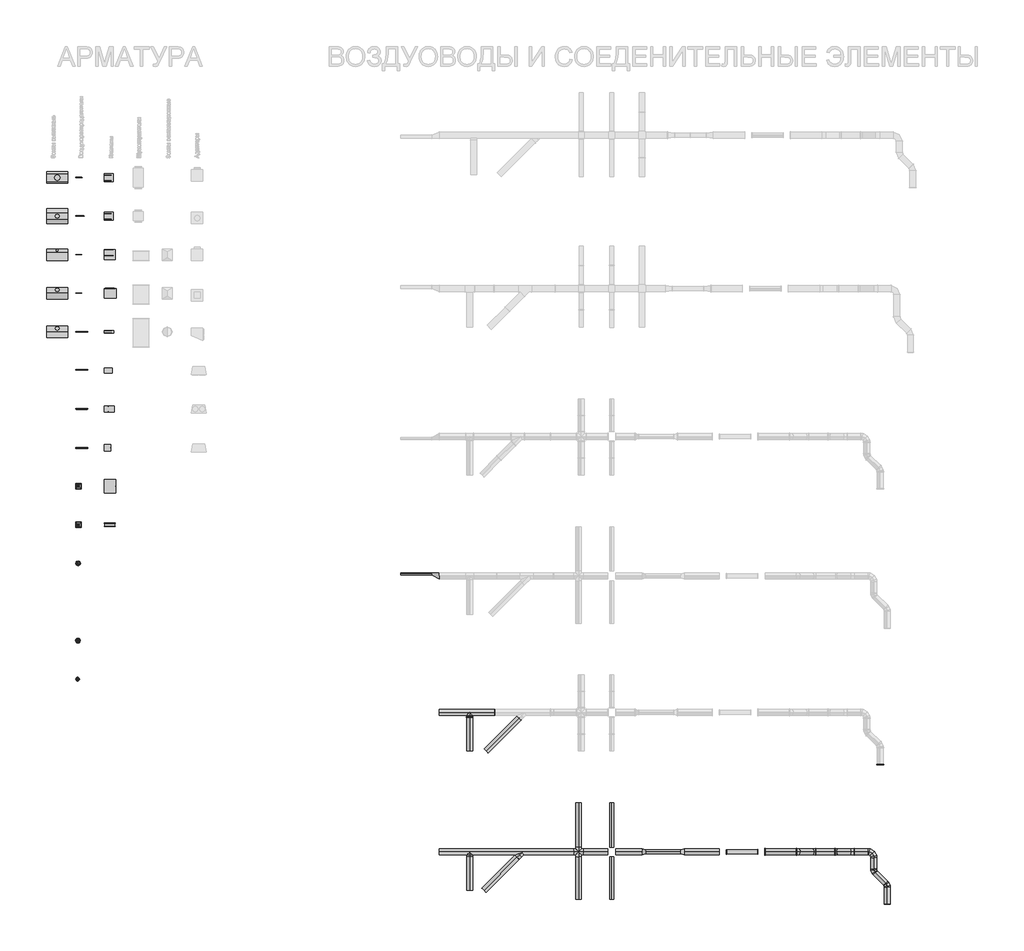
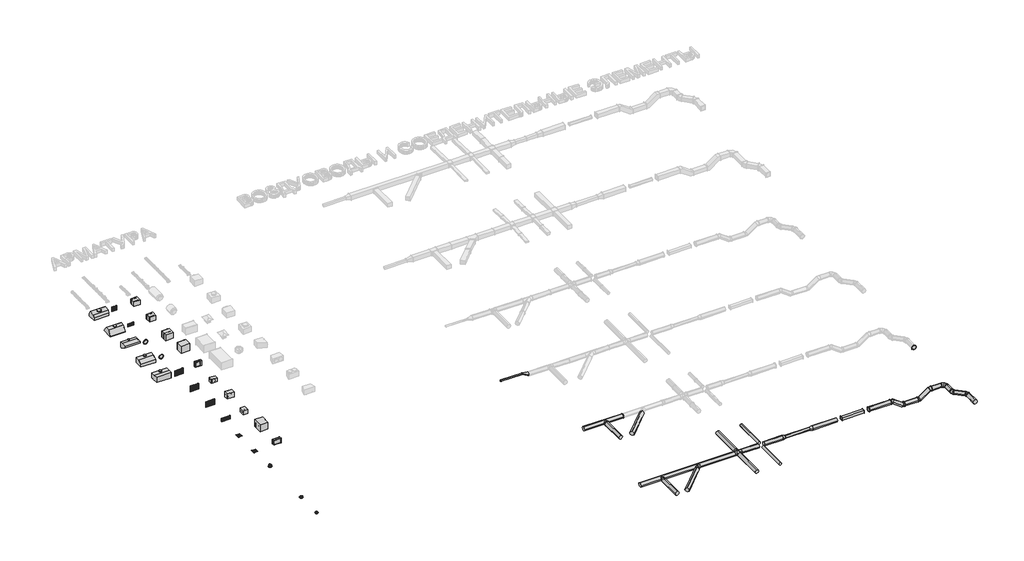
# One storey, part 1 of 8: 30 duct fittings, 22 duct segments, 18 air terminals, 10 dampers.
"""IFC4 building model written with IfcOpenShell, lengths in millimetres."""

from ifc_helpers import new_model, si_unit, point, frame, frame_2d, origin, place, context, project, spatial, polyline, circle_curve, trimmed, segment, composite_curve, outline, extrude, transform, mapped, element, save
from components import air_terminal_6631711a, air_terminal_726ac5b5, air_terminal_818791bf, air_terminal_c572d766, air_terminal_bbb7754d, air_terminal_75e9669e, air_terminal_655b97c2, air_terminal_7ce92efb, air_terminal_2eded44f, air_terminal_bd3d6ee1, air_terminal_1dd1559a, air_terminal_31dd35a5, air_terminal_cd9755a1, air_terminal_686e35e0, air_terminal_300x300_0f7a04d9, damper_64ad2245, damper_406b02c0, damper_ba747da2, damper_77c5eded, damper_d4565087, damper_23d59467, damper_62d6e836, damper_9898ae58, damper_53707811, duct_fitting_ac770645, duct_fitting_c73acc6d, duct_fitting_7090af0c, duct_fitting_e0d7a8d8, duct_fitting_46974226, duct_fitting_f76519de, duct_fitting_766df063, duct_fitting_5eff2181, duct_fitting_5b7d299d, duct_fitting_8ec2bed2, duct_fitting_57fa9806, duct_fitting_327ef4ee, duct_fitting_1ddd712a, duct_fitting_6a6d7aa5, duct_fitting_3902be6a, duct_fitting_cf778fcf, duct_fitting_49a873c3, duct_fitting_24f2fb5e, duct_fitting_d4da9353

model = new_model("IFC4")

# Units and contexts
model_context = context("Model", 3, world=origin())
ifc_project = project(units=[si_unit("LENGTHUNIT", "METRE", prefix="MILLI")], contexts=[model_context])

# Site, building, storey
site = spatial("IfcSite", under=ifc_project)
building = spatial("IfcBuilding", under=site)
storey = spatial("IfcBuildingStorey", under=building, Name="Уровень 1", Elevation=0.0)

# Air terminals
placement = place(None, origin())
air_terminal_shape = air_terminal_6631711a(model_context)
element("IfcAirTerminal", 1, ObjectType="BL_РешеткаКругаля_Забор_ALAV : BL_РешеткаКругаля_Забор_ALAV", at=placement, inside=storey, context=model_context, shape_type="MappedRepresentation", body=[
    mapped(air_terminal_shape, transform((-66708.1651759, 26347.2225324, 0.0), x_axis=(0.0, -1.0000000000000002, 0.0), y_axis=(1.0000000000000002, 0.0, 0.0), z_axis=(0.0, 0.0, 1.0))),
])
air_terminal_2_shape = air_terminal_726ac5b5(model_context)
element("IfcAirTerminal", 2, ObjectType="BL_ЗонтВытяжной_Пристенный_ЗВП : BL_ЗонтВытяжной_Пристенный_ЗВП", at=placement, inside=storey, context=model_context, shape_type="MappedRepresentation", body=[
    mapped(air_terminal_2_shape, transform((-67828.1651759, 26632.2225324, 0.0), x_axis=(1.0000000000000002, 0.0, 0.0), y_axis=(0.0, 1.0000000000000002, 0.0), z_axis=(0.0, 0.0, 1.0))),
])
air_terminal_3_shape = air_terminal_818791bf(model_context)
element("IfcAirTerminal", 3, ObjectType="BL_ЗонтВытяжной_Пристенный_ЗВП : BL_ЗонтВытяжной_Пристенный_ЗВП", at=placement, inside=storey, context=model_context, shape_type="MappedRepresentation", body=[
    mapped(air_terminal_3_shape, transform((-67828.1651759, 24632.2225324, 0.0), x_axis=(1.0000000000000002, 0.0, 0.0), y_axis=(0.0, 1.0000000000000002, 0.0), z_axis=(0.0, 0.0, 1.0))),
])
air_terminal_4_shape = air_terminal_c572d766(model_context)
element("IfcAirTerminal", 4, ObjectType="BL_ЗонтВытяжной_Пристенный_ЗВП : BL_ЗонтВытяжной_Пристенный_ЗВП", at=placement, inside=storey, context=model_context, shape_type="MappedRepresentation", body=[
    mapped(air_terminal_4_shape, transform((-67828.1651759, 22632.2225321, 0.0), x_axis=(1.0000000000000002, 0.0, 0.0), y_axis=(0.0, 1.0000000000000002, 0.0), z_axis=(0.0, 0.0, 1.0))),
])
air_terminal_5_shape = air_terminal_bbb7754d(model_context)
element("IfcAirTerminal", 5, ObjectType="BL_ЗонтВытяжной_Островной_ЗВО : BL_ЗонтВытяжной_Островной_ЗВО", at=placement, inside=storey, context=model_context, shape_type="MappedRepresentation", body=[
    mapped(air_terminal_5_shape, transform((-67828.1651759, 30332.2225324, 0.0), x_axis=(1.0000000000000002, 0.0, 0.0), y_axis=(0.0, 1.0000000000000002, 0.0), z_axis=(0.0, 0.0, 1.0))),
])
air_terminal_6_shape = air_terminal_75e9669e(model_context)
element("IfcAirTerminal", 6, ObjectType="BL_ЗонтВытяжной_Островной_ЗВО : BL_ЗонтВытяжной_Островной_ЗВО", at=placement, inside=storey, context=model_context, shape_type="MappedRepresentation", body=[
    mapped(air_terminal_6_shape, transform((-67828.1651759, 28332.2225324, 0.0), x_axis=(1.0000000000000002, 0.0, 0.0), y_axis=(0.0, 1.0000000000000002, 0.0), z_axis=(0.0, 0.0, 1.0))),
])
element("IfcAirTerminal", 7, ObjectType="BL_РешеткаКругаля_Выброс_ALAV : BL_РешеткаКругаля_Выброс_ALAV", at=placement, inside=storey, context=model_context, shape_type="MappedRepresentation", body=[
    mapped(air_terminal_shape, transform((-66708.1651759, 24347.2225324, 57.7350269), x_axis=(0.0, -1.0000000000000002, 0.0), y_axis=(1.0000000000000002, 0.0, 0.0), z_axis=(0.0, 0.0, 1.0))),
])
air_terminal_7_shape = air_terminal_655b97c2(model_context)
element("IfcAirTerminal", 8, ObjectType="BL_ДифузорСопловый_Приточный_LKV : BL_ДифузорСопловый_Приточный_LKV", at=placement, inside=storey, context=model_context, shape_type="MappedRepresentation", body=[
    mapped(air_terminal_7_shape, transform((-66748.1651759, 10332.2225324, -2.0), x_axis=(0.0, -1.0000000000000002, 0.0), y_axis=(1.0000000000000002, 0.0, 0.0), z_axis=(0.0, 0.0, 1.0))),
])
air_terminal_8_shape = air_terminal_7ce92efb(model_context)
element("IfcAirTerminal", 9, ObjectType="BL_РешеткаПрямоугольная_Приточная_LVN : BL_РешеткаПрямоугольная_Приточная_LVN", at=placement, inside=storey, context=model_context, shape_type="MappedRepresentation", body=[
    mapped(air_terminal_8_shape, transform((-66555.6651759, 22357.2225324, 0.0), x_axis=(0.0, -1.0000000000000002, 0.0), y_axis=(1.0000000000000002, 0.0, 0.0), z_axis=(0.0, 0.0, 1.0))),
])
air_terminal_9_shape = air_terminal_2eded44f(model_context)
element("IfcAirTerminal", 10, ObjectType="BL_РешеткаПрямоугольная_Приточная_LVO : BL_РешеткаПрямоугольная_Приточная_LVO", at=placement, inside=storey, context=model_context, shape_type="MappedRepresentation", body=[
    mapped(air_terminal_9_shape, transform((-66705.6651759, 30362.2225324, 172.5), x_axis=(0.0, -1.0000000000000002, 0.0), y_axis=(1.0000000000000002, 0.0, 0.0), z_axis=(0.0, 0.0, 1.0))),
])
air_terminal_10_shape = air_terminal_bd3d6ee1(model_context)
element("IfcAirTerminal", 11, ObjectType="BL_РешеткаПрямоугольная_Вытяжная_LVO : BL_РешеткаПрямоугольная_Вытяжная_LVO", at=placement, inside=storey, context=model_context, shape_type="MappedRepresentation", body=[
    mapped(air_terminal_10_shape, transform((-66655.6651759, 28362.2225324, 122.5), x_axis=(0.0, -1.0000000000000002, 0.0), y_axis=(1.0000000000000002, 0.0, 0.0), z_axis=(0.0, 0.0, 1.0))),
])
element("IfcAirTerminal", 12, ObjectType="BL_РешеткаПрямоугольная_Вытяжная_LVN : BL_РешеткаПрямоугольная_Вытяжная_LVN", at=placement, inside=storey, context=model_context, shape_type="MappedRepresentation", body=[
    mapped(air_terminal_8_shape, transform((-66555.6651759, 20371.4432399, 0.0), x_axis=(0.0, -1.0000000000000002, 0.0), y_axis=(1.0000000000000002, 0.0, 0.0), z_axis=(0.0, 0.0, 1.0))),
])
air_terminal_11_shape = air_terminal_1dd1559a(model_context)
element("IfcAirTerminal", 13, ObjectType="BL_РешеткаПрямоугольная_Вытяжная_LVI : BL_РешеткаПрямоугольная_Вытяжная_LVI", at=placement, inside=storey, context=model_context, shape_type="MappedRepresentation", body=[
    mapped(air_terminal_11_shape, transform((-66555.6651759, 18362.2225324, 0.0), x_axis=(0.0, -1.0000000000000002, 0.0), y_axis=(1.0000000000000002, 0.0, 0.0), z_axis=(0.0, 0.0, 1.0))),
])
air_terminal_12_shape = air_terminal_31dd35a5(model_context)
element("IfcAirTerminal", 14, ObjectType="BL_РешеткаПрямоугольная_Вытяжная_LVK : BL_РешеткаПрямоугольная_Вытяжная_LVK", at=placement, inside=storey, context=model_context, shape_type="MappedRepresentation", body=[
    mapped(air_terminal_12_shape, transform((-66555.6651759, 16322.2225324, 0.0), x_axis=(0.0, -1.0000000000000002, 0.0), y_axis=(1.0000000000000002, 0.0, 0.0), z_axis=(0.0, 0.0, 1.0))),
])
air_terminal_13_shape = air_terminal_cd9755a1(model_context)
element("IfcAirTerminal", 15, ObjectType="BL_ДифузорПотолочный_Приточный_DVSP : BL_ДифузорПотолочный_Приточный_DVSP", at=placement, inside=storey, context=model_context, shape_type="MappedRepresentation", body=[
    mapped(air_terminal_13_shape, transform((-66772.6651759, 4332.2225324, 0.0), x_axis=(0.0, -1.0000000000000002, 0.0), y_axis=(1.0000000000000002, 0.0, 0.0), z_axis=(0.0, 0.0, 1.0))),
])
air_terminal_14_shape = air_terminal_686e35e0(model_context)
element("IfcAirTerminal", 16, ObjectType="BL_ДифузорПотолочный_Вытяжной_DVSV : BL_ДифузорПотолочный_Вытяжной_DVSV", at=placement, inside=storey, context=model_context, shape_type="MappedRepresentation", body=[
    mapped(air_terminal_14_shape, transform((-66755.1651759, 6332.2225324, 0.0), x_axis=(0.0, -1.0000000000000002, 0.0), y_axis=(1.0000000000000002, 0.0, 0.0), z_axis=(0.0, 0.0, 1.0))),
])
air_terminal_300x300_shape = air_terminal_300x300_0f7a04d9(model_context)
element("IfcAirTerminal", 17, ObjectType="BL_ДифузорПотолочный_Прямоугольный_Приточный_LDP : 300x300", at=placement, inside=storey, context=model_context, shape_type="MappedRepresentation", body=[
    mapped(air_terminal_300x300_shape, transform((-66728.1651759, 14332.2225324, 0.0), x_axis=(0.0, -1.0000000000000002, 0.0), y_axis=(1.0000000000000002, 0.0, 0.0), z_axis=(0.0, 0.0, 1.0))),
])
element("IfcAirTerminal", 18, ObjectType="BL_ДифузорПотолочный_Прямоугольный_Вытяжной_LDP : 300x300", at=placement, inside=storey, context=model_context, shape_type="MappedRepresentation", body=[
    mapped(air_terminal_300x300_shape, transform((-66728.1651759, 12332.2225324, 0.0), x_axis=(0.0, -1.0000000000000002, 0.0), y_axis=(1.0000000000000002, 0.0, 0.0), z_axis=(0.0, 0.0, 1.0))),
])

# Dampers
damper_shape = damper_64ad2245(model_context)
element("IfcDamper", 19, ObjectType="КлапанДымовой_НЗ_LVS : КлапанДымовой_НЗ_LVS", at=placement, inside=storey, context=model_context, shape_type="MappedRepresentation", body=[
    mapped(damper_shape, transform((-65205.1651759, 30312.2225324, 173.0), x_axis=(0.0, -1.0000000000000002, 0.0), y_axis=(1.0000000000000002, 0.0, 0.0), z_axis=(0.0, 0.0, 1.0))),
])
element("IfcDamper", 20, ObjectType="КлапанОгнезадерживающийПрямугольный_НО_LVS : КлапанОгнезадерживающийПрямугольный_НО_LVS", at=placement, inside=storey, context=model_context, shape_type="MappedRepresentation", body=[
    mapped(damper_shape, transform((-65205.1651759, 28312.2225324, 173.0), x_axis=(0.0, -1.0000000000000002, 0.0), y_axis=(1.0000000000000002, 0.0, 0.0), z_axis=(0.0, 0.0, 1.0))),
])
damper_2_shape = damper_406b02c0(model_context)
element("IfcDamper", 21, ObjectType="Заслонка_VZL : Заслонка_VZL", at=placement, inside=storey, context=model_context, shape_type="MappedRepresentation", body=[
    mapped(damper_2_shape, transform((-65193.1651759, 22332.2225324, 185.0), x_axis=(0.0, -1.0000000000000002, 0.0), y_axis=(1.0000000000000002, 0.0, 0.0), z_axis=(0.0, 0.0, 1.0))),
])
damper_3_shape = damper_ba747da2(model_context)
element("IfcDamper", 22, ObjectType="КлапанДымовойКруглый_НЗ_LVR : КлапанДымовойКруглый_НЗ_LVR", at=placement, inside=storey, context=model_context, shape_type="MappedRepresentation", body=[
    mapped(damper_3_shape, transform((-65178.1651759, 18332.2225324, 200.0), x_axis=(0.0, -1.0000000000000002, 0.0), y_axis=(1.0000000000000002, 0.0, 0.0), z_axis=(0.0, 0.0, 1.0))),
])
damper_4_shape = damper_77c5eded(model_context)
element("IfcDamper", 23, ObjectType="КлапанОгнезадерживающийКруглый_НО_LVR : КлапанОгнезадерживающийКруглый_НО_LVR", at=placement, inside=storey, context=model_context, shape_type="MappedRepresentation", body=[
    mapped(damper_4_shape, transform((-65228.1651759, 20332.2225324, 150.0), x_axis=(0.0, 1.0000000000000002, 0.0), y_axis=(1.0000000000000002, 0.0, 0.0), z_axis=(0.0, 0.0, -1.0))),
])
damper_5_shape = damper_d4565087(model_context)
element("IfcDamper", 24, ObjectType="КлапанДымовой_LVDW : КлапанДымовой_LVDW", at=placement, inside=storey, context=model_context, shape_type="MappedRepresentation", body=[
    mapped(damper_5_shape, transform((-65103.1651759, 24437.2225324, 275.0), x_axis=(0.0, -1.0000000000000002, 0.0), y_axis=(1.0000000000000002, 0.0, 0.0), z_axis=(0.0, 0.0, 1.0))),
])
damper_6_shape = damper_23d59467(model_context)
element("IfcDamper", 25, ObjectType="Дроссель-клапан_Круглый : Дроссель-клапан_Круглый", at=placement, inside=storey, context=model_context, shape_type="MappedRepresentation", body=[
    mapped(damper_6_shape, transform((-65228.1651759, 16332.2225324, 150.0), x_axis=(0.0, -1.0000000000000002, 0.0), y_axis=(1.0000000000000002, 0.0, 0.0), z_axis=(0.0, 0.0, 1.0))),
])
damper_7_shape = damper_62d6e836(model_context)
element("IfcDamper", 26, ObjectType="Дроссель-клапан_Прямоугольный : Дроссель-клапан_Прямоугольный", at=placement, inside=storey, context=model_context, shape_type="MappedRepresentation", body=[
    mapped(damper_7_shape, transform((-65103.1651759, 14332.2225324, 175.0), x_axis=(0.0, -1.0000000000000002, 0.0), y_axis=(1.0000000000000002, 0.0, 0.0), z_axis=(0.0, 0.0, 1.0))),
])
damper_8_shape = damper_9898ae58(model_context)
element("IfcDamper", 27, ObjectType="КлапанОбратный_Прямоугольный_KIO : КлапанОбратный_Прямоугольный_KIO", at=placement, inside=storey, context=model_context, shape_type="MappedRepresentation", body=[
    mapped(damper_8_shape, transform((-65103.1651759, 12332.2225324, 175.0), x_axis=(0.0, -1.0000000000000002, 0.0), y_axis=(1.0000000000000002, 0.0, 0.0), z_axis=(0.0, 0.0, 1.0))),
])
damper_9_shape = damper_53707811(model_context)
element("IfcDamper", 28, ObjectType="КлапанДымовой_LVD : КлапанДымовой_LVD", at=placement, inside=storey, context=model_context, shape_type="MappedRepresentation", body=[
    mapped(damper_9_shape, transform((-65153.1651759, 26437.2225324, 0.0), x_axis=(0.0, -1.0000000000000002, 0.0), y_axis=(1.0000000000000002, 0.0, 0.0), z_axis=(0.0, 0.0, 1.0))),
])

# Duct fittings
duct_fitting_shape = duct_fitting_ac770645(model_context)
element("IfcDuctFitting", 29, ObjectType="BL_ЗаглушкаВоздуховодов_Круглая : Ниппельное соединение", at=placement, inside=storey, context=model_context, shape_type="MappedRepresentation", body=[
    mapped(duct_fitting_shape, transform((-24824.5423961, -7326.8110668, 1050.0), x_axis=(0.0, -1.0, 0.0), y_axis=(1.0, 0.0, 0.0), z_axis=(0.0, 0.0, 1.0))),
])
duct_fitting_2_shape = duct_fitting_c73acc6d(model_context)
element("IfcDuctFitting", 30, ObjectType="BL_КрестовинаВоздуховодов_Круглая : Ниппельное соединение", at=placement, inside=storey, context=model_context, shape_type="MappedRepresentation", body=[
    mapped(duct_fitting_2_shape, transform((-40817.6035183, -4619.7042856, 1050.0), x_axis=(0.0, 1.0, 0.0), y_axis=(-1.0, 0.0, 0.0), z_axis=(0.0, 0.0, 1.0))),
])
duct_fitting_3_shape = duct_fitting_7090af0c(model_context)
element("IfcDuctFitting", 31, ObjectType="BL_ВрезкаВоздуховодов_Круглая : Ниппельное соединение", at=placement, inside=storey, context=model_context, shape_type="MappedRepresentation", body=[
    mapped(duct_fitting_3_shape, transform((-46460.2026389, -4769.7042856, 1050.0), x_axis=(0.0, -1.0, 0.0), y_axis=(-1.0, 0.0, 0.0), z_axis=(0.0, 0.0, -1.0))),
])
duct_fitting_4_shape = duct_fitting_e0d7a8d8(model_context)
element("IfcDuctFitting", 32, ObjectType="BL_ВрезкаВоздуховодов_Круглая : Ниппельное соединение", at=placement, inside=storey, context=model_context, shape_type="MappedRepresentation", body=[
    mapped(duct_fitting_4_shape, transform((-43866.2966207, -4769.7042856, 1050.0), x_axis=(-0.7071067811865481, -0.7071067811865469, 0.0), y_axis=(-0.7071067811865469, 0.7071067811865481, 0.0), z_axis=(0.0, 0.0, -1.0))),
])
element("IfcDuctFitting", 33, ObjectType="BL_ВрезкаВоздуховодов_Круглая : Фланцевое соединение", at=placement, inside=storey, context=model_context, shape_type="MappedRepresentation", body=[
    mapped(duct_fitting_3_shape, transform((-46460.2026389, 2461.2474283, 1050.0), x_axis=(0.0, -1.0, 0.0), y_axis=(-1.0, 0.0, 0.0), z_axis=(0.0, 0.0, -1.0))),
])
duct_fitting_5_shape = duct_fitting_46974226(model_context)
element("IfcDuctFitting", 34, ObjectType="BL_ОтводВоздуховодов_Круглый : Ниппельное соединение", at=placement, inside=storey, context=model_context, shape_type="MappedRepresentation", body=[
    mapped(duct_fitting_5_shape, transform((-25531.6491772, -4619.7042856, 1050.0), x_axis=(0.0, 1.0, 0.0), y_axis=(-1.0, 0.0, 0.0), z_axis=(0.0, 0.0, 1.0))),
])
duct_fitting_6_shape = duct_fitting_f76519de(model_context)
element("IfcDuctFitting", 35, ObjectType="BL_ОтводВоздуховодов_Круглый : Ниппельное соединение", at=placement, inside=storey, context=model_context, shape_type="MappedRepresentation", body=[
    mapped(duct_fitting_6_shape, transform((-25531.6491772, -5619.7042856, 1050.0), x_axis=(0.0, -1.0, 0.0), y_axis=(1.0, 0.0, 0.0), z_axis=(0.0, 0.0, 1.0))),
])
element("IfcDuctFitting", 36, ObjectType="BL_ОтводВоздуховодов_Круглый : Ниппельное соединение", at=placement, inside=storey, context=model_context, shape_type="MappedRepresentation", body=[
    mapped(duct_fitting_6_shape, transform((-24824.5423961, -6326.8110668, 1050.0), x_axis=(0.0, 1.0, 0.0), y_axis=(-1.0, 0.0, 0.0), z_axis=(0.0, 0.0, 1.0))),
])
duct_fitting_7_shape = duct_fitting_766df063(model_context)
element("IfcDuctFitting", 37, ObjectType="BL_НиппельВоздуховдов_Круглый : BL_НиппельВоздуховдов_Круглый", at=placement, inside=storey, context=model_context, shape_type="MappedRepresentation", body=[
    mapped(duct_fitting_7_shape, transform((-45156.52998, 2656.9216512, 1050.0), x_axis=(1.0, 0.0, 0.0), y_axis=(0.0, 1.0, 0.0), z_axis=(0.0, 0.0, 1.0))),
])
duct_fitting_8_shape = duct_fitting_5eff2181(model_context)
element("IfcDuctFitting", 38, ObjectType="BL_УткаВоздуховодов_Круглая : Фланцевое соединение", at=placement, inside=storey, context=model_context, shape_type="MappedRepresentation", body=[
    mapped(duct_fitting_8_shape, transform((-29531.6491772, -4619.7042856, 1050.0), x_axis=(1.0, 0.0, 0.0), y_axis=(0.0, 1.0, 0.0), z_axis=(0.0, 0.0, 1.0))),
])
duct_fitting_9_shape = duct_fitting_5b7d299d(model_context)
element("IfcDuctFitting", 39, ObjectType="BL_УткаВоздуховодов_Круглая : Фланцевое соединение", at=placement, inside=storey, context=model_context, shape_type="MappedRepresentation", body=[
    mapped(duct_fitting_9_shape, transform((-26531.6491772, -4619.7042856, 1050.0), x_axis=(-1.0, 0.0, 0.0), y_axis=(0.0, -1.0, 0.0), z_axis=(0.0, 0.0, 1.0))),
])
element("IfcDuctFitting", 40, ObjectType="BL_ЗаглушкаВоздуховодов_Круглая : Фланцевое соединение", at=placement, inside=storey, context=model_context, shape_type="MappedRepresentation", body=[
    mapped(duct_fitting_shape, transform((-25186.963783, -95.8593529, 1050.0), x_axis=(0.0, -1.0, 0.0), y_axis=(1.0, 0.0, 0.0), z_axis=(0.0, 0.0, 1.0))),
])
duct_fitting_10_shape = duct_fitting_8ec2bed2(model_context)
element("IfcDuctFitting", 41, ObjectType="BL_ФланецВоздуховдов-Двойной_Круглый_БезКоннекторов : BL_ФланецВоздуховдов-Двойной_Круглый_БезКоннекторов", at=placement, inside=storey, context=model_context, shape_type="MappedRepresentation", body=[
    mapped(duct_fitting_10_shape, transform((-25141.28956, -95.8593529, 1050.0), x_axis=(0.0, -1.0, 0.0), y_axis=(1.0, 0.0, 0.0), z_axis=(0.0, 0.0, 1.0))),
])
element("IfcDuctFitting", 42, ObjectType="BL_ФланецВоздуховдов-Двойной_Круглый_БезКоннекторов : BL_ФланецВоздуховдов-Двойной_Круглый_БезКоннекторов", at=placement, inside=storey, context=model_context, shape_type="MappedRepresentation", body=[
    mapped(duct_fitting_10_shape, transform((-31156.6491772, -4574.0300627, 1050.0), x_axis=(1.0, 0.0, 0.0), y_axis=(0.0, 1.0, 0.0), z_axis=(0.0, 0.0, 1.0))),
])
element("IfcDuctFitting", 43, ObjectType="BL_ФланецВоздуховдов-Двойной_Круглый_БезКоннекторов : BL_ФланецВоздуховдов-Двойной_Круглый_БезКоннекторов", at=placement, inside=storey, context=model_context, shape_type="MappedRepresentation", body=[
    mapped(duct_fitting_10_shape, transform((-29531.6491772, -4574.0300627, 1050.0), x_axis=(1.0, 0.0, 0.0), y_axis=(0.0, 1.0, 0.0), z_axis=(0.0, 0.0, 1.0))),
])
element("IfcDuctFitting", 44, ObjectType="BL_ФланецВоздуховдов-Двойной_Круглый_БезКоннекторов : BL_ФланецВоздуховдов-Двойной_Круглый_БезКоннекторов", at=placement, inside=storey, context=model_context, shape_type="MappedRepresentation", body=[
    mapped(duct_fitting_10_shape, transform((-28531.6491772, -4574.0300627, 544.886411), x_axis=(1.0, 0.0, 0.0), y_axis=(0.0, 1.0, 0.0), z_axis=(0.0, 0.0, 1.0))),
])
duct_fitting_11_shape = duct_fitting_57fa9806(model_context)
element("IfcDuctFitting", 45, ObjectType="BL_ФланецВоздуховдов-Двойной_Круглый_БезКоннекторов : BL_ФланецВоздуховдов-Двойной_Круглый_БезКоннекторов", at=placement, inside=storey, context=model_context, shape_type="MappedRepresentation", body=[
    mapped(duct_fitting_11_shape, transform((-26531.6491772, -4574.0300627, 1050.0), x_axis=(-1.0, 0.0, 0.0), y_axis=(0.0, -1.0, 0.0), z_axis=(0.0, 0.0, 1.0))),
])
element("IfcDuctFitting", 46, ObjectType="BL_ФланецВоздуховдов-Двойной_Круглый_БезКоннекторов : BL_ФланецВоздуховдов-Двойной_Круглый_БезКоннекторов", at=placement, inside=storey, context=model_context, shape_type="MappedRepresentation", body=[
    mapped(duct_fitting_11_shape, transform((-27531.6491772, -4574.0300627, 544.886411), x_axis=(-1.0, 0.0, 0.0), y_axis=(0.0, -1.0, 0.0), z_axis=(0.0, 0.0, 1.0))),
])
duct_fitting_12_shape = duct_fitting_327ef4ee(model_context)
element("IfcDuctFitting", 47, ObjectType="BL_ПереходникВоздуховодов_Круглый : Ниппельное соединение", at=placement, inside=storey, context=model_context, shape_type="MappedRepresentation", body=[
    mapped(duct_fitting_12_shape, transform((-37531.6491772, -4619.7042856, 1050.0), x_axis=(1.0, 0.0, 0.0), y_axis=(0.0, 1.0, 0.0), z_axis=(0.0, 0.0, 1.0))),
])
duct_fitting_13_shape = duct_fitting_1ddd712a(model_context)
element("IfcDuctFitting", 48, ObjectType="BL_ПереходникВоздуховодов_Круглый : Ниппельное соединение", at=placement, inside=storey, context=model_context, shape_type="MappedRepresentation", body=[
    mapped(duct_fitting_13_shape, transform((-35531.6491772, -4619.7042856, 1050.0), x_axis=(1.0, 0.0, 0.0), y_axis=(0.0, 1.0, 0.0), z_axis=(0.0, 0.0, 1.0))),
])
duct_fitting_14_shape = duct_fitting_6a6d7aa5(model_context)
element("IfcDuctFitting", 49, ObjectType="BL_ФланецВоздуховдов-Двойной_Круглый_БезКоннекторов : BL_ФланецВоздуховдов-Двойной_Круглый_БезКоннекторов", at=placement, inside=storey, context=model_context, shape_type="MappedRepresentation", body=[
    mapped(duct_fitting_14_shape, transform((-46414.528416, 2361.2474283, 1050.0), x_axis=(0.0, -1.0, 0.0), y_axis=(-1.0, 0.0, 0.0), z_axis=(0.0, 0.0, -1.0))),
])
duct_fitting_15_shape = duct_fitting_3902be6a(model_context)
element("IfcDuctFitting", 50, ObjectType="BL_ПереходникВоздуховодов_Круглый : Ниппельное соединение", at=placement, inside=storey, context=model_context, shape_type="MappedRepresentation", body=[
    mapped(duct_fitting_15_shape, transform((-48040.6087126, 9680.2957144, 1050.0), x_axis=(-1.0, 0.0, 0.0), y_axis=(0.0, -1.0, 0.0), z_axis=(0.0, 0.0, 1.0))),
])
duct_fitting_16_shape = duct_fitting_cf778fcf(model_context)
element("IfcDuctFitting", 51, ObjectType="BL_ФланецВоздуховдов-Двойной_Круглый_БезКоннекторов : BL_ФланецВоздуховдов-Двойной_Круглый_БезКоннекторов", at=placement, inside=storey, context=model_context, shape_type="MappedRepresentation", body=[
    mapped(duct_fitting_16_shape, transform((-65182.4909529, 16417.2225324, 150.0), x_axis=(0.0, -1.0000000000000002, 0.0), y_axis=(1.0000000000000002, 0.0, 0.0), z_axis=(0.0, 0.0, 1.0))),
])
element("IfcDuctFitting", 52, ObjectType="BL_ФланецВоздуховдов-Двойной_Круглый_БезКоннекторов : BL_ФланецВоздуховдов-Двойной_Круглый_БезКоннекторов", at=placement, inside=storey, context=model_context, shape_type="MappedRepresentation", body=[
    mapped(duct_fitting_16_shape, transform((-65182.4909529, 16246.2225324, 150.0), x_axis=(0.0, -1.0000000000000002, 0.0), y_axis=(1.0000000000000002, 0.0, 0.0), z_axis=(0.0, 0.0, 1.0))),
])
duct_fitting_17_shape = duct_fitting_49a873c3(model_context)
element("IfcDuctFitting", 53, ObjectType="BL_ФланецВоздуховдов-Двойной_Прямоугольный_БезКоннекторов : BL_ФланецВоздуховдов-Двойной_Прямоугольный_БезКоннекторов", at=placement, inside=storey, context=model_context, shape_type="MappedRepresentation", body=[
    mapped(duct_fitting_17_shape, transform((-31531.6491772, -4574.0300627, 1050.0), x_axis=(1.0, 0.0, 0.0), y_axis=(0.0, 1.0, 0.0), z_axis=(0.0, 0.0, 1.0))),
])
duct_fitting_18_shape = duct_fitting_24f2fb5e(model_context)
element("IfcDuctFitting", 54, ObjectType="BL_ФланецВоздуховдов-Двойной_Прямоугольный_БезКоннекторов : BL_ФланецВоздуховдов-Двойной_Прямоугольный_БезКоннекторов", at=placement, inside=storey, context=model_context, shape_type="MappedRepresentation", body=[
    mapped(duct_fitting_18_shape, transform((-33156.6491772, -4665.3785086, 1050.0), x_axis=(-1.0, 0.0, 0.0), y_axis=(0.0, -1.0, 0.0), z_axis=(0.0, 0.0, 1.0))),
])
duct_fitting_19_shape = duct_fitting_d4da9353(model_context)
element("IfcDuctFitting", 55, ObjectType="BL_ФланецВоздуховдов-Двойной_Прямоугольный_БезКоннекторов : BL_ФланецВоздуховдов-Двойной_Прямоугольный_БезКоннекторов", at=placement, inside=storey, context=model_context, shape_type="MappedRepresentation", body=[
    mapped(duct_fitting_19_shape, transform((-65057.4909529, 14507.2225324, 175.0), x_axis=(0.0, -1.0000000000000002, 0.0), y_axis=(1.0000000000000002, 0.0, 0.0), z_axis=(0.0, 0.0, 1.0))),
])
element("IfcDuctFitting", 56, ObjectType="BL_ФланецВоздуховдов-Двойной_Прямоугольный_БезКоннекторов : BL_ФланецВоздуховдов-Двойной_Прямоугольный_БезКоннекторов", at=placement, inside=storey, context=model_context, shape_type="MappedRepresentation", body=[
    mapped(duct_fitting_19_shape, transform((-65057.4909529, 14157.2225324, 175.0), x_axis=(0.0, -1.0000000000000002, 0.0), y_axis=(1.0000000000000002, 0.0, 0.0), z_axis=(0.0, 0.0, 1.0))),
])
element("IfcDuctFitting", 57, ObjectType="BL_ФланецВоздуховдов-Двойной_Прямоугольный_БезКоннекторов : BL_ФланецВоздуховдов-Двойной_Прямоугольный_БезКоннекторов", at=placement, inside=storey, context=model_context, shape_type="MappedRepresentation", body=[
    mapped(duct_fitting_19_shape, transform((-65057.4909529, 12412.2225324, 175.0), x_axis=(0.0, -1.0000000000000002, 0.0), y_axis=(1.0000000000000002, 0.0, 0.0), z_axis=(0.0, 0.0, 1.0))),
])
element("IfcDuctFitting", 58, ObjectType="BL_ФланецВоздуховдов-Двойной_Прямоугольный_БезКоннекторов : BL_ФланецВоздуховдов-Двойной_Прямоугольный_БезКоннекторов", at=placement, inside=storey, context=model_context, shape_type="MappedRepresentation", body=[
    mapped(duct_fitting_19_shape, transform((-65057.4909529, 12252.2225324, 175.0), x_axis=(0.0, -1.0000000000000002, 0.0), y_axis=(1.0000000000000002, 0.0, 0.0), z_axis=(0.0, 0.0, 1.0))),
])

# Duct segments
element("IfcDuctSegment", 59, ObjectType="BL_Воздуховод круглого сечения_Врезки_Ниппельное соединение", at=placement, inside=storey, context=model_context, shape_type="SweptSolid", body=[
    extrude(outline(composite_curve([segment(trimmed(circle_curve(frame_2d((-4619.7042856, 1050.0)), 150.0), [point((-4769.7042856, 1050.0))], [point((-4619.7042856, 1200.0))], False, "CARTESIAN"), True, "CONTINUOUS"), segment(trimmed(circle_curve(frame_2d((-4619.7042856, 1050.0)), 150.0), [point((-4619.7042856, 1200.0))], [point((-4469.7042856, 1050.0))], False, "CARTESIAN"), True, "CONTINUOUS"), segment(trimmed(circle_curve(frame_2d((-4619.7042856, 1050.0)), 150.0), [point((-4469.7042856, 1050.0))], [point((-4619.7042856, 900.0))], False, "CARTESIAN"), True, "CONTINUOUS"), segment(trimmed(circle_curve(frame_2d((-4619.7042856, 1050.0)), 150.0), [point((-4619.7042856, 900.0))], [point((-4769.7042856, 1050.0))], False, "CARTESIAN"), True, "CONTINUOUS")], self_intersect=False)), frame((-38894.0705642, 0.0, 0.0), z_axis=(1.0, 0.0, 0.0), x_axis=(0.0, 1.0, 0.0)), (0.0, 0.0, 1.0), 1362.4213869),
])
element("IfcDuctSegment", 60, ObjectType="BL_Воздуховод круглого сечения_Врезки_Ниппельное соединение", at=placement, inside=storey, context=model_context, shape_type="SweptSolid", body=[
    extrude(outline(composite_curve([segment(trimmed(circle_curve(frame_2d((1050.0, -40817.6035183)), 150.0), [point((1050.0, -40967.6035183))], [point((900.0, -40817.6035183))], False, "CARTESIAN"), True, "CONTINUOUS"), segment(trimmed(circle_curve(frame_2d((1050.0, -40817.6035183)), 150.0), [point((900.0, -40817.6035183))], [point((1050.0, -40667.6035183))], False, "CARTESIAN"), True, "CONTINUOUS"), segment(trimmed(circle_curve(frame_2d((1050.0, -40817.6035183)), 150.0), [point((1050.0, -40667.6035183))], [point((1200.0, -40817.6035183))], False, "CARTESIAN"), True, "CONTINUOUS"), segment(trimmed(circle_curve(frame_2d((1050.0, -40817.6035183)), 150.0), [point((1200.0, -40817.6035183))], [point((1050.0, -40967.6035183))], False, "CARTESIAN"), True, "CONTINUOUS")], self_intersect=False)), frame((0.0, -7075.374664, 0.0), z_axis=(0.0, 1.0, 0.0), x_axis=(0.0, 0.0, 1.0)), (0.0, 0.0, 1.0), 2205.6703783),
])
element("IfcDuctSegment", 61, ObjectType="BL_Воздуховод круглого сечения_Врезки_Ниппельное соединение", at=placement, inside=storey, context=model_context, shape_type="SweptSolid", body=[
    extrude(outline(composite_curve([segment(trimmed(circle_curve(frame_2d((1050.0, -40817.6035183)), 150.0), [point((1050.0, -40967.6035183))], [point((900.0, -40817.6035183))], False, "CARTESIAN"), True, "CONTINUOUS"), segment(trimmed(circle_curve(frame_2d((1050.0, -40817.6035183)), 150.0), [point((900.0, -40817.6035183))], [point((1050.0, -40667.6035183))], False, "CARTESIAN"), True, "CONTINUOUS"), segment(trimmed(circle_curve(frame_2d((1050.0, -40817.6035183)), 150.0), [point((1050.0, -40667.6035183))], [point((1200.0, -40817.6035183))], False, "CARTESIAN"), True, "CONTINUOUS"), segment(trimmed(circle_curve(frame_2d((1050.0, -40817.6035183)), 150.0), [point((1200.0, -40817.6035183))], [point((1050.0, -40967.6035183))], False, "CARTESIAN"), True, "CONTINUOUS")], self_intersect=False)), frame((0.0, -4369.7042856, 0.0), z_axis=(0.0, 1.0, 0.0), x_axis=(0.0, 0.0, 1.0)), (0.0, 0.0, 1.0), 2294.3296217),
])
element("IfcDuctSegment", 62, ObjectType="BL_Воздуховод круглого сечения_Врезки_Ниппельное соединение", at=placement, inside=storey, context=model_context, shape_type="SweptSolid", body=[
    extrude(outline(composite_curve([segment(trimmed(circle_curve(frame_2d((-4619.7042856, 1050.0)), 150.0), [point((-4469.7042856, 1050.0))], [point((-4619.7042856, 900.0))], False, "CARTESIAN"), True, "CONTINUOUS"), segment(trimmed(circle_curve(frame_2d((-4619.7042856, 1050.0)), 150.0), [point((-4619.7042856, 900.0))], [point((-4769.7042856, 1050.0))], False, "CARTESIAN"), True, "CONTINUOUS"), segment(trimmed(circle_curve(frame_2d((-4619.7042856, 1050.0)), 150.0), [point((-4769.7042856, 1050.0))], [point((-4619.7042856, 1200.0))], False, "CARTESIAN"), True, "CONTINUOUS"), segment(trimmed(circle_curve(frame_2d((-4619.7042856, 1050.0)), 150.0), [point((-4619.7042856, 1200.0))], [point((-4469.7042856, 1050.0))], False, "CARTESIAN"), True, "CONTINUOUS")], self_intersect=False)), frame((-48040.6087126, 0.0, 0.0), z_axis=(1.0, 0.0, 0.0), x_axis=(0.0, 1.0, 0.0)), (0.0, 0.0, 1.0), 6973.0051943),
])
element("IfcDuctSegment", 63, ObjectType="BL_Воздуховод круглого сечения_Врезки_Ниппельное соединение", at=placement, inside=storey, context=model_context, shape_type="SweptSolid", body=[
    extrude(outline(composite_curve([segment(trimmed(circle_curve(frame_2d((1050.0, -39094.0705642)), 100.0), [point((1050.0, -39194.0705642))], [point((950.0, -39094.0705642))], False, "CARTESIAN"), True, "CONTINUOUS"), segment(trimmed(circle_curve(frame_2d((1050.0, -39094.0705642)), 100.0), [point((950.0, -39094.0705642))], [point((1050.0, -38994.0705642))], False, "CARTESIAN"), True, "CONTINUOUS"), segment(trimmed(circle_curve(frame_2d((1050.0, -39094.0705642)), 100.0), [point((1050.0, -38994.0705642))], [point((1150.0, -39094.0705642))], False, "CARTESIAN"), True, "CONTINUOUS"), segment(trimmed(circle_curve(frame_2d((1050.0, -39094.0705642)), 100.0), [point((1150.0, -39094.0705642))], [point((1050.0, -39194.0705642))], False, "CARTESIAN"), True, "CONTINUOUS")], self_intersect=False)), frame((0.0, -7075.374664, 0.0), z_axis=(0.0, 1.0, 0.0), x_axis=(0.0, 0.0, 1.0)), (0.0, 0.0, 1.0), 2205.6703783),
])
element("IfcDuctSegment", 64, ObjectType="BL_Воздуховод круглого сечения_Врезки_Ниппельное соединение", at=placement, inside=storey, context=model_context, shape_type="SweptSolid", body=[
    extrude(outline(composite_curve([segment(trimmed(circle_curve(frame_2d((1050.0, -39094.0705642)), 100.0), [point((1050.0, -39194.0705642))], [point((950.0, -39094.0705642))], False, "CARTESIAN"), True, "CONTINUOUS"), segment(trimmed(circle_curve(frame_2d((1050.0, -39094.0705642)), 100.0), [point((950.0, -39094.0705642))], [point((1050.0, -38994.0705642))], False, "CARTESIAN"), True, "CONTINUOUS"), segment(trimmed(circle_curve(frame_2d((1050.0, -39094.0705642)), 100.0), [point((1050.0, -38994.0705642))], [point((1150.0, -39094.0705642))], False, "CARTESIAN"), True, "CONTINUOUS"), segment(trimmed(circle_curve(frame_2d((1050.0, -39094.0705642)), 100.0), [point((1150.0, -39094.0705642))], [point((1050.0, -39194.0705642))], False, "CARTESIAN"), True, "CONTINUOUS")], self_intersect=False)), frame((0.0, -4369.7042856, 0.0), z_axis=(0.0, 1.0, 0.0), x_axis=(0.0, 0.0, 1.0)), (0.0, 0.0, 1.0), 2294.3296217),
])
element("IfcDuctSegment", 65, ObjectType="BL_Воздуховод круглого сечения_Врезки_Ниппельное соединение", at=placement, inside=storey, context=model_context, shape_type="SweptSolid", body=[
    extrude(outline(composite_curve([segment(trimmed(circle_curve(frame_2d((-4619.7042856, 1050.0)), 150.0), [point((-4769.7042856, 1050.0))], [point((-4619.7042856, 1200.0))], False, "CARTESIAN"), True, "CONTINUOUS"), segment(trimmed(circle_curve(frame_2d((-4619.7042856, 1050.0)), 150.0), [point((-4619.7042856, 1200.0))], [point((-4469.7042856, 1050.0))], False, "CARTESIAN"), True, "CONTINUOUS"), segment(trimmed(circle_curve(frame_2d((-4619.7042856, 1050.0)), 150.0), [point((-4469.7042856, 1050.0))], [point((-4619.7042856, 900.0))], False, "CARTESIAN"), True, "CONTINUOUS"), segment(trimmed(circle_curve(frame_2d((-4619.7042856, 1050.0)), 150.0), [point((-4619.7042856, 900.0))], [point((-4769.7042856, 1050.0))], False, "CARTESIAN"), True, "CONTINUOUS")], self_intersect=False)), frame((-40567.6035183, 0.0, 0.0), z_axis=(1.0, 0.0, 0.0), x_axis=(0.0, 1.0, 0.0)), (0.0, 0.0, 1.0), 1273.5329541),
])
element("IfcDuctSegment", 66, ObjectType="BL_Воздуховод круглого сечения_Врезки_Ниппельное соединение", at=placement, inside=storey, context=model_context, shape_type="SweptSolid", body=[
    extrude(outline(composite_curve([segment(trimmed(circle_curve(frame_2d((-4619.7042856, 1050.0)), 100.0), [point((-4719.7042856, 1050.0))], [point((-4619.7042856, 1150.0))], False, "CARTESIAN"), True, "CONTINUOUS"), segment(trimmed(circle_curve(frame_2d((-4619.7042856, 1050.0)), 100.0), [point((-4619.7042856, 1150.0))], [point((-4519.7042856, 1050.0))], False, "CARTESIAN"), True, "CONTINUOUS"), segment(trimmed(circle_curve(frame_2d((-4619.7042856, 1050.0)), 100.0), [point((-4519.7042856, 1050.0))], [point((-4619.7042856, 950.0))], False, "CARTESIAN"), True, "CONTINUOUS"), segment(trimmed(circle_curve(frame_2d((-4619.7042856, 1050.0)), 100.0), [point((-4619.7042856, 950.0))], [point((-4719.7042856, 1050.0))], False, "CARTESIAN"), True, "CONTINUOUS")], self_intersect=False)), frame((-37331.6491772, 0.0, 0.0), z_axis=(1.0, 0.0, 0.0), x_axis=(0.0, 1.0, 0.0)), (0.0, 0.0, 1.0), 1800.0),
])
element("IfcDuctSegment", 67, ObjectType="BL_Воздуховод круглого сечения_Врезки_Ниппельное соединение", at=placement, inside=storey, context=model_context, shape_type="SweptSolid", body=[
    extrude(outline(composite_curve([segment(trimmed(circle_curve(frame_2d((-4619.7042856, 1050.0)), 150.0), [point((-4769.7042856, 1050.0))], [point((-4619.7042856, 1200.0))], False, "CARTESIAN"), True, "CONTINUOUS"), segment(trimmed(circle_curve(frame_2d((-4619.7042856, 1050.0)), 150.0), [point((-4619.7042856, 1200.0))], [point((-4469.7042856, 1050.0))], False, "CARTESIAN"), True, "CONTINUOUS"), segment(trimmed(circle_curve(frame_2d((-4619.7042856, 1050.0)), 150.0), [point((-4469.7042856, 1050.0))], [point((-4619.7042856, 900.0))], False, "CARTESIAN"), True, "CONTINUOUS"), segment(trimmed(circle_curve(frame_2d((-4619.7042856, 1050.0)), 150.0), [point((-4619.7042856, 900.0))], [point((-4769.7042856, 1050.0))], False, "CARTESIAN"), True, "CONTINUOUS")], self_intersect=False)), frame((-35331.6491772, 0.0, 0.0), z_axis=(1.0, 0.0, 0.0), x_axis=(0.0, 1.0, 0.0)), (0.0, 0.0, 1.0), 1800.0),
])
element("IfcDuctSegment", 68, ObjectType="BL_Воздуховод прямоугольного сечения_Тройники_Фланцевое соединение", at=placement, inside=storey, context=model_context, shape_type="SweptSolid", body=[
    extrude(outline(polyline([(-33156.6491772, -4719.7042856), (-33156.6491772, -4519.7042856), (-31531.6491772, -4519.7042856), (-31531.6491772, -4719.7042856), (-33156.6491772, -4719.7042856)])), frame((0.0, 0.0, 950.0), z_axis=(0.0, 0.0, 1.0), x_axis=(1.0, 0.0, 0.0)), (0.0, 0.0, 1.0), 200.0),
])
element("IfcDuctSegment", 69, ObjectType="BL_Воздуховод круглого сечения_Врезки_Ниппельное соединение", at=placement, inside=storey, context=model_context, shape_type="SweptSolid", body=[
    extrude(outline(composite_curve([segment(trimmed(circle_curve(frame_2d((-4619.7042856, 1050.0)), 150.0), [point((-4769.7042856, 1050.0))], [point((-4619.7042856, 1200.0))], False, "CARTESIAN"), True, "CONTINUOUS"), segment(trimmed(circle_curve(frame_2d((-4619.7042856, 1050.0)), 150.0), [point((-4619.7042856, 1200.0))], [point((-4469.7042856, 1050.0))], False, "CARTESIAN"), True, "CONTINUOUS"), segment(trimmed(circle_curve(frame_2d((-4619.7042856, 1050.0)), 150.0), [point((-4469.7042856, 1050.0))], [point((-4619.7042856, 900.0))], False, "CARTESIAN"), True, "CONTINUOUS"), segment(trimmed(circle_curve(frame_2d((-4619.7042856, 1050.0)), 150.0), [point((-4619.7042856, 900.0))], [point((-4769.7042856, 1050.0))], False, "CARTESIAN"), True, "CONTINUOUS")], self_intersect=False)), frame((-31156.6491772, 0.0, 0.0), z_axis=(1.0, 0.0, 0.0), x_axis=(0.0, 1.0, 0.0)), (0.0, 0.0, 1.0), 1625.0),
])
element("IfcDuctSegment", 70, ObjectType="BL_Воздуховод круглого сечения_Врезки_Ниппельное соединение", at=placement, inside=storey, context=model_context, shape_type="SweptSolid", body=[
    extrude(outline(composite_curve([segment(trimmed(circle_curve(frame_2d((-4619.7042856, 544.886411)), 150.0), [point((-4469.7042856, 544.886411))], [point((-4619.7042856, 394.886411))], False, "CARTESIAN"), True, "CONTINUOUS"), segment(trimmed(circle_curve(frame_2d((-4619.7042856, 544.886411)), 150.0), [point((-4619.7042856, 394.886411))], [point((-4769.7042856, 544.886411))], False, "CARTESIAN"), True, "CONTINUOUS"), segment(trimmed(circle_curve(frame_2d((-4619.7042856, 544.886411)), 150.0), [point((-4769.7042856, 544.886411))], [point((-4619.7042856, 694.886411))], False, "CARTESIAN"), True, "CONTINUOUS"), segment(trimmed(circle_curve(frame_2d((-4619.7042856, 544.886411)), 150.0), [point((-4619.7042856, 694.886411))], [point((-4469.7042856, 544.886411))], False, "CARTESIAN"), True, "CONTINUOUS")], self_intersect=False)), frame((-28531.6491772, 0.0, 0.0), z_axis=(1.0, 0.0, 0.0), x_axis=(0.0, 1.0, 0.0)), (0.0, 0.0, 1.0), 1000.0),
])
element("IfcDuctSegment", 71, ObjectType="BL_Воздуховод круглого сечения_Врезки_Ниппельное соединение", at=placement, inside=storey, context=model_context, shape_type="SweptSolid", body=[
    extrude(outline(composite_curve([segment(trimmed(circle_curve(frame_2d((-4619.7042856, 1050.0)), 150.0), [point((-4769.7042856, 1050.0))], [point((-4619.7042856, 1200.0))], False, "CARTESIAN"), True, "CONTINUOUS"), segment(trimmed(circle_curve(frame_2d((-4619.7042856, 1050.0)), 150.0), [point((-4619.7042856, 1200.0))], [point((-4469.7042856, 1050.0))], False, "CARTESIAN"), True, "CONTINUOUS"), segment(trimmed(circle_curve(frame_2d((-4619.7042856, 1050.0)), 150.0), [point((-4469.7042856, 1050.0))], [point((-4619.7042856, 900.0))], False, "CARTESIAN"), True, "CONTINUOUS"), segment(trimmed(circle_curve(frame_2d((-4619.7042856, 1050.0)), 150.0), [point((-4619.7042856, 900.0))], [point((-4769.7042856, 1050.0))], False, "CARTESIAN"), True, "CONTINUOUS")], self_intersect=False)), frame((-26531.6491772, 0.0, 0.0), z_axis=(1.0, 0.0, 0.0), x_axis=(0.0, 1.0, 0.0)), (0.0, 0.0, 1.0), 700.0),
])
element("IfcDuctSegment", 72, ObjectType="BL_Воздуховод круглого сечения_Врезки_Ниппельное соединение", at=placement, inside=storey, context=model_context, shape_type="SweptSolid", body=[
    extrude(outline(composite_curve([segment(trimmed(circle_curve(frame_2d((1050.0, -25531.6491772)), 150.0), [point((1050.0, -25681.6491772))], [point((900.0, -25531.6491772))], False, "CARTESIAN"), True, "CONTINUOUS"), segment(trimmed(circle_curve(frame_2d((1050.0, -25531.6491772)), 150.0), [point((900.0, -25531.6491772))], [point((1050.0, -25381.6491772))], False, "CARTESIAN"), True, "CONTINUOUS"), segment(trimmed(circle_curve(frame_2d((1050.0, -25531.6491772)), 150.0), [point((1050.0, -25381.6491772))], [point((1200.0, -25531.6491772))], False, "CARTESIAN"), True, "CONTINUOUS"), segment(trimmed(circle_curve(frame_2d((1050.0, -25531.6491772)), 150.0), [point((1200.0, -25531.6491772))], [point((1050.0, -25681.6491772))], False, "CARTESIAN"), True, "CONTINUOUS")], self_intersect=False)), frame((0.0, -5495.4402169, 0.0), z_axis=(0.0, 1.0, 0.0), x_axis=(0.0, 0.0, 1.0)), (0.0, 0.0, 1.0), 575.7359313),
])
element("IfcDuctSegment", 73, ObjectType="BL_Воздуховод круглого сечения_Врезки_Ниппельное соединение", at=placement, inside=storey, context=model_context, shape_type="SweptSolid", body=[
    extrude(outline(composite_curve([segment(trimmed(circle_curve(frame_2d((0.0, -150.0)), 150.0), [point((-150.0, -150.0))], [point((0.0, 0.0))], False, "CARTESIAN"), True, "CONTINUOUS"), segment(trimmed(circle_curve(frame_2d((0.0, -150.0)), 150.0), [point((0.0, 0.0))], [point((150.0, -150.0))], False, "CARTESIAN"), True, "CONTINUOUS"), segment(trimmed(circle_curve(frame_2d((0.0, -150.0)), 150.0), [point((150.0, -150.0))], [point((0.0, -300.0))], False, "CARTESIAN"), True, "CONTINUOUS"), segment(trimmed(circle_curve(frame_2d((0.0, -150.0)), 150.0), [point((0.0, -300.0))], [point((-150.0, -150.0))], False, "CARTESIAN"), True, "CONTINUOUS")], self_intersect=False)), frame((-24912.4103617, -6238.9431012, 900.0), z_axis=(-0.7071067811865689, 0.7071067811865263, 0.0), x_axis=(0.7071067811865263, 0.7071067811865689, 0.0)), (0.0, 0.0, 1.0), 751.4718626),
])
element("IfcDuctSegment", 74, ObjectType="BL_Воздуховод круглого сечения_Врезки_Ниппельное соединение", at=placement, inside=storey, context=model_context, shape_type="SweptSolid", body=[
    extrude(outline(composite_curve([segment(trimmed(circle_curve(frame_2d((1050.0, -24824.5423961)), 150.0), [point((1050.0, -24974.5423961))], [point((900.0, -24824.5423961))], False, "CARTESIAN"), True, "CONTINUOUS"), segment(trimmed(circle_curve(frame_2d((1050.0, -24824.5423961)), 150.0), [point((900.0, -24824.5423961))], [point((1050.0, -24674.5423961))], False, "CARTESIAN"), True, "CONTINUOUS"), segment(trimmed(circle_curve(frame_2d((1050.0, -24824.5423961)), 150.0), [point((1050.0, -24674.5423961))], [point((1200.0, -24824.5423961))], False, "CARTESIAN"), True, "CONTINUOUS"), segment(trimmed(circle_curve(frame_2d((1050.0, -24824.5423961)), 150.0), [point((1200.0, -24824.5423961))], [point((1050.0, -24974.5423961))], False, "CARTESIAN"), True, "CONTINUOUS")], self_intersect=False)), frame((0.0, -7326.8110668, 0.0), z_axis=(0.0, 1.0, 0.0), x_axis=(0.0, 0.0, 1.0)), (0.0, 0.0, 1.0), 875.7359313),
])
element("IfcDuctSegment", 75, ObjectType="BL_Воздуховод круглого сечения_Врезки_Фланцевое соединение", at=placement, inside=storey, context=model_context, shape_type="SweptSolid", body=[
    extrude(outline(composite_curve([segment(trimmed(circle_curve(frame_2d((2611.2474283, 1050.0)), 150.0), [point((2761.2474283, 1050.0))], [point((2611.2474283, 900.0))], False, "CARTESIAN"), True, "CONTINUOUS"), segment(trimmed(circle_curve(frame_2d((2611.2474283, 1050.0)), 150.0), [point((2611.2474283, 900.0))], [point((2461.2474283, 1050.0))], False, "CARTESIAN"), True, "CONTINUOUS"), segment(trimmed(circle_curve(frame_2d((2611.2474283, 1050.0)), 150.0), [point((2461.2474283, 1050.0))], [point((2611.2474283, 1200.0))], False, "CARTESIAN"), True, "CONTINUOUS"), segment(trimmed(circle_curve(frame_2d((2611.2474283, 1050.0)), 150.0), [point((2611.2474283, 1200.0))], [point((2761.2474283, 1050.0))], False, "CARTESIAN"), True, "CONTINUOUS")], self_intersect=False)), frame((-48040.6087126, 0.0, 0.0), z_axis=(1.0, 0.0, 0.0), x_axis=(0.0, 1.0, 0.0)), (0.0, 0.0, 1.0), 2879.0787326),
])
element("IfcDuctSegment", 76, ObjectType="BL_Воздуховод круглого сечения_Врезки_Фланцевое соединение", at=placement, inside=storey, context=model_context, shape_type="SweptSolid", body=[
    extrude(outline(composite_curve([segment(trimmed(circle_curve(frame_2d((1050.0, -46460.2026389)), 150.0), [point((1050.0, -46610.2026389))], [point((900.0, -46460.2026389))], False, "CARTESIAN"), True, "CONTINUOUS"), segment(trimmed(circle_curve(frame_2d((1050.0, -46460.2026389)), 150.0), [point((900.0, -46460.2026389))], [point((1050.0, -46310.2026389))], False, "CARTESIAN"), True, "CONTINUOUS"), segment(trimmed(circle_curve(frame_2d((1050.0, -46460.2026389)), 150.0), [point((1050.0, -46310.2026389))], [point((1200.0, -46460.2026389))], False, "CARTESIAN"), True, "CONTINUOUS"), segment(trimmed(circle_curve(frame_2d((1050.0, -46460.2026389)), 150.0), [point((1200.0, -46460.2026389))], [point((1050.0, -46610.2026389))], False, "CARTESIAN"), True, "CONTINUOUS")], self_intersect=False)), frame((0.0, 611.2474283, 0.0), z_axis=(0.0, 1.0, 0.0), x_axis=(0.0, 0.0, 1.0)), (0.0, 0.0, 1.0), 1750.0),
])
element("IfcDuctSegment", 77, ObjectType="BL_Воздуховод круглого сечения_Врезки_Фланцевое соединение", at=placement, inside=storey, context=model_context, shape_type="SweptSolid", body=[
    extrude(outline(composite_curve([segment(trimmed(circle_curve(frame_2d((0.0, -150.0)), 150.0), [point((-150.0, -150.0))], [point((0.0, 0.0))], False, "CARTESIAN"), True, "CONTINUOUS"), segment(trimmed(circle_curve(frame_2d((0.0, -150.0)), 150.0), [point((0.0, 0.0))], [point((150.0, -150.0))], False, "CARTESIAN"), True, "CONTINUOUS"), segment(trimmed(circle_curve(frame_2d((0.0, -150.0)), 150.0), [point((150.0, -150.0))], [point((0.0, -300.0))], False, "CARTESIAN"), True, "CONTINUOUS"), segment(trimmed(circle_curve(frame_2d((0.0, -150.0)), 150.0), [point((0.0, -300.0))], [point((-150.0, -150.0))], False, "CARTESIAN"), True, "CONTINUOUS")], self_intersect=False)), frame((-45606.6954888, 611.2474283, 900.0), z_axis=(0.7071067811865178, 0.7071067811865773, 0.0), x_axis=(0.7071067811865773, -0.7071067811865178, 0.0)), (0.0, 0.0, 1.0), 2416.2950904),
])
element("IfcDuctSegment", 78, ObjectType="BL_Воздуховод круглого сечения_Врезки_Ниппельное соединение", at=placement, inside=storey, context=model_context, shape_type="SweptSolid", body=[
    extrude(outline(composite_curve([segment(trimmed(circle_curve(frame_2d((1050.0, -46460.2026389)), 150.0), [point((1050.0, -46610.2026389))], [point((900.0, -46460.2026389))], False, "CARTESIAN"), True, "CONTINUOUS"), segment(trimmed(circle_curve(frame_2d((1050.0, -46460.2026389)), 150.0), [point((900.0, -46460.2026389))], [point((1050.0, -46310.2026389))], False, "CARTESIAN"), True, "CONTINUOUS"), segment(trimmed(circle_curve(frame_2d((1050.0, -46460.2026389)), 150.0), [point((1050.0, -46310.2026389))], [point((1200.0, -46460.2026389))], False, "CARTESIAN"), True, "CONTINUOUS"), segment(trimmed(circle_curve(frame_2d((1050.0, -46460.2026389)), 150.0), [point((1200.0, -46460.2026389))], [point((1050.0, -46610.2026389))], False, "CARTESIAN"), True, "CONTINUOUS")], self_intersect=False)), frame((0.0, -6619.7042856, 0.0), z_axis=(0.0, 1.0, 0.0), x_axis=(0.0, 0.0, 1.0)), (0.0, 0.0, 1.0), 1750.0),
])
element("IfcDuctSegment", 79, ObjectType="BL_Воздуховод круглого сечения_Врезки_Ниппельное соединение", at=placement, inside=storey, context=model_context, shape_type="SweptSolid", body=[
    extrude(outline(composite_curve([segment(trimmed(circle_curve(frame_2d((0.0, -150.0)), 150.0), [point((-150.0, -150.0))], [point((0.0, 0.0))], False, "CARTESIAN"), True, "CONTINUOUS"), segment(trimmed(circle_curve(frame_2d((0.0, -150.0)), 150.0), [point((0.0, 0.0))], [point((150.0, -150.0))], False, "CARTESIAN"), True, "CONTINUOUS"), segment(trimmed(circle_curve(frame_2d((0.0, -150.0)), 150.0), [point((150.0, -150.0))], [point((0.0, -300.0))], False, "CARTESIAN"), True, "CONTINUOUS"), segment(trimmed(circle_curve(frame_2d((0.0, -150.0)), 150.0), [point((0.0, -300.0))], [point((-150.0, -150.0))], False, "CARTESIAN"), True, "CONTINUOUS")], self_intersect=False)), frame((-45716.2966207, -6619.7042856, 900.0), z_axis=(0.7071067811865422, 0.7071067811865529, 0.0), x_axis=(0.7071067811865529, -0.7071067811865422, 0.0)), (0.0, 0.0, 1.0), 2416.2950904),
])
element("IfcDuctSegment", 80, ObjectType="BL_Воздуховод круглого сечения_Тройники_Ниппельное соединение", at=placement, inside=storey, context=model_context, shape_type="SweptSolid", body=[
    extrude(outline(composite_curve([segment(trimmed(circle_curve(frame_2d((9780.2957144, 1150.0)), 50.0), [point((9830.2957144, 1150.0))], [point((9780.2957144, 1100.0))], False, "CARTESIAN"), True, "CONTINUOUS"), segment(trimmed(circle_curve(frame_2d((9780.2957144, 1150.0)), 50.0), [point((9780.2957144, 1100.0))], [point((9730.2957144, 1150.0))], False, "CARTESIAN"), True, "CONTINUOUS"), segment(trimmed(circle_curve(frame_2d((9780.2957144, 1150.0)), 50.0), [point((9730.2957144, 1150.0))], [point((9780.2957144, 1200.0))], False, "CARTESIAN"), True, "CONTINUOUS"), segment(trimmed(circle_curve(frame_2d((9780.2957144, 1150.0)), 50.0), [point((9780.2957144, 1200.0))], [point((9830.2957144, 1150.0))], False, "CARTESIAN"), True, "CONTINUOUS")], self_intersect=False)), frame((-50040.6087126, 0.0, 0.0), z_axis=(1.0, 0.0, 0.0), x_axis=(0.0, 1.0, 0.0)), (0.0, 0.0, 1.0), 1625.0),
])

save(model, "model.ifc")
